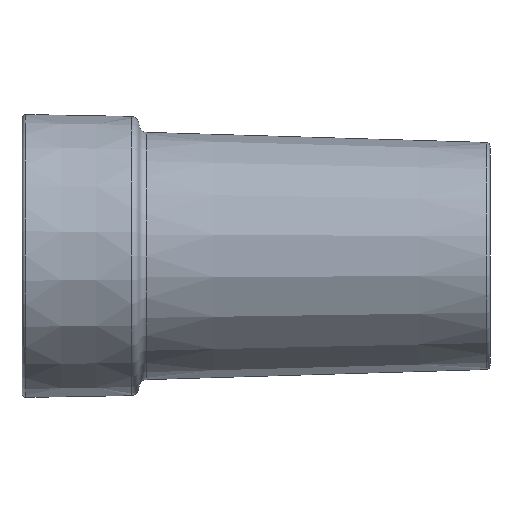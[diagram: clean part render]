
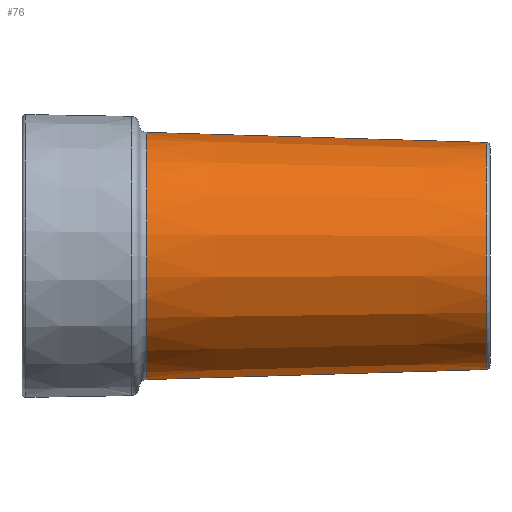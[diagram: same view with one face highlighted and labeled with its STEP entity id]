
A CAD part, left-side view. The second image highlights one B-rep face of the part: STEP entity #76.
In plain terms, the highlighted conical face has half-angle 1.7 degrees and reference radius 31.75 mm.
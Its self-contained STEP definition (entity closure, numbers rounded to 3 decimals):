
#13 = DIRECTION ( 'NONE',  ( 0., 1., 0. ) ) ;
#16 = VERTEX_POINT ( 'NONE', #185 ) ;
#39 = VERTEX_POINT ( 'NONE', #398 ) ;
#46 = AXIS2_PLACEMENT_3D ( 'NONE', #452, #13, #123 ) ;
#68 = EDGE_LOOP ( 'NONE', ( #376, #191, #795, #785 ) ) ;
#71 = DIRECTION ( 'NONE',  ( 0., 0., 1. ) ) ;
#76 = ADVANCED_FACE ( 'NONE', ( #784 ), #505, .T. ) ;
#90 = CARTESIAN_POINT ( 'NONE',  ( 0., -89.03, -29.108 ) ) ;
#107 = VERTEX_POINT ( 'NONE', #729 ) ;
#122 = CARTESIAN_POINT ( 'NONE',  ( 0., -1.941, 0. ) ) ;
#123 = DIRECTION ( 'NONE',  ( 0., 0., 1. ) ) ;
#126 = LINE ( 'NONE', #528, #450 ) ;
#139 = DIRECTION ( 'NONE',  ( 0., 1., 0. ) ) ;
#185 = CARTESIAN_POINT ( 'NONE',  ( 0., -1.941, 31.692 ) ) ;
#191 = ORIENTED_EDGE ( 'NONE', *, *, #773, .T. ) ;
#299 = CARTESIAN_POINT ( 'NONE',  ( 0., 0., -31.75 ) ) ;
#348 = EDGE_CURVE ( 'NONE', #465, #39, #360, .T. ) ;
#360 = LINE ( 'NONE', #299, #514 ) ;
#376 = ORIENTED_EDGE ( 'NONE', *, *, #348, .F. ) ;
#398 = CARTESIAN_POINT ( 'NONE',  ( 0., -1.941, -31.692 ) ) ;
#438 = EDGE_CURVE ( 'NONE', #16, #39, #527, .T. ) ;
#443 = EDGE_CURVE ( 'NONE', #107, #16, #126, .T. ) ;
#450 = VECTOR ( 'NONE', #618, 1000. ) ;
#452 = CARTESIAN_POINT ( 'NONE',  ( 0., -89.03, 0. ) ) ;
#455 = DIRECTION ( 'NONE',  ( 0., 1., -0.03 ) ) ;
#460 = DIRECTION ( 'NONE',  ( 0., 0., -1. ) ) ;
#465 = VERTEX_POINT ( 'NONE', #90 ) ;
#468 = AXIS2_PLACEMENT_3D ( 'NONE', #545, #139, #71 ) ;
#505 = CONICAL_SURFACE ( 'NONE', #468, 31.75, 0.03 ) ;
#514 = VECTOR ( 'NONE', #455, 1000. ) ;
#527 = CIRCLE ( 'NONE', #715, 31.692 ) ;
#528 = CARTESIAN_POINT ( 'NONE',  ( 0., 0., 31.75 ) ) ;
#545 = CARTESIAN_POINT ( 'NONE',  ( 0., 0., 0. ) ) ;
#618 = DIRECTION ( 'NONE',  ( 0., 1., 0.03 ) ) ;
#715 = AXIS2_PLACEMENT_3D ( 'NONE', #122, #856, #460 ) ;
#729 = CARTESIAN_POINT ( 'NONE',  ( 0., -89.03, 29.108 ) ) ;
#744 = CIRCLE ( 'NONE', #46, 29.108 ) ;
#773 = EDGE_CURVE ( 'NONE', #465, #107, #744, .T. ) ;
#784 = FACE_OUTER_BOUND ( 'NONE', #68, .T. ) ;
#785 = ORIENTED_EDGE ( 'NONE', *, *, #438, .T. ) ;
#795 = ORIENTED_EDGE ( 'NONE', *, *, #443, .T. ) ;
#856 = DIRECTION ( 'NONE',  ( 0., -1., 0. ) ) ;
